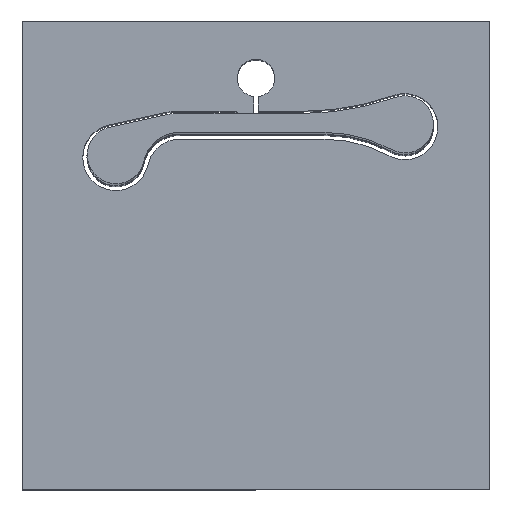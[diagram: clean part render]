
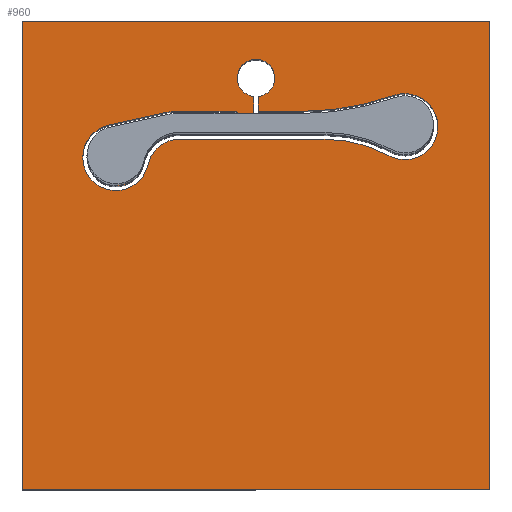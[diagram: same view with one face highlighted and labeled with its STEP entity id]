
A CAD part, top view. The second image highlights one B-rep face of the part: STEP entity #960.
In plain terms, the highlighted planar face has unit normal (0, 0, 1).
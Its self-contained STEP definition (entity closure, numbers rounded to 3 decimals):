
#122=CARTESIAN_POINT('',(22.761,40.438,50.0));
#123=VERTEX_POINT('',#122);
#130=CARTESIAN_POINT('',(16.414,40.438,50.0));
#131=VERTEX_POINT('',#130);
#132=CARTESIAN_POINT('',(16.414,40.438,50.0));
#133=DIRECTION('',(1.0,0.0,0.0));
#134=VECTOR('',#133,6.347);
#135=LINE('',#132,#134);
#136=EDGE_CURVE('',#131,#123,#135,.T.);
#162=CARTESIAN_POINT('',(15.453,40.333,50.0));
#163=VERTEX_POINT('',#162);
#164=CARTESIAN_POINT('',(16.414,36.,50.0));
#165=DIRECTION('',(0.0,0.0,-1.0));
#166=DIRECTION('',(0.0,1.0,0.0));
#167=AXIS2_PLACEMENT_3D('',#164,#165,#166);
#168=CIRCLE('',#167,4.438);
#169=EDGE_CURVE('',#163,#131,#168,.T.);
#194=CARTESIAN_POINT('',(9.234,38.954,50.0));
#195=VERTEX_POINT('',#194);
#196=CARTESIAN_POINT('',(9.234,38.954,50.0));
#197=DIRECTION('',(0.976,0.216,0.0));
#198=VECTOR('',#197,6.37);
#199=LINE('',#196,#198);
#200=EDGE_CURVE('',#195,#163,#199,.T.);
#226=CARTESIAN_POINT('',(13.456,34.742,50.0));
#227=VERTEX_POINT('',#226);
#228=CARTESIAN_POINT('',(10.,35.5,50.0));
#229=DIRECTION('',(0.0,0.0,-1.0));
#230=DIRECTION('',(-0.216,0.976,0.0));
#231=AXIS2_PLACEMENT_3D('',#228,#229,#230);
#232=CIRCLE('',#231,3.538);
#233=EDGE_CURVE('',#227,#195,#232,.T.);
#259=CARTESIAN_POINT('',(16.837,37.462,50.0));
#260=VERTEX_POINT('',#259);
#261=CARTESIAN_POINT('',(16.837,34.,50.0));
#262=DIRECTION('',(0.0,0.0,1.0));
#263=DIRECTION('',(0.0,-1.0,0.0));
#264=AXIS2_PLACEMENT_3D('',#261,#262,#263);
#265=CIRCLE('',#264,3.462);
#266=EDGE_CURVE('',#260,#227,#265,.T.);
#291=CARTESIAN_POINT('',(32.276,37.462,50.0));
#292=VERTEX_POINT('',#291);
#293=CARTESIAN_POINT('',(32.276,37.462,50.0));
#294=DIRECTION('',(-1.0,0.0,0.0));
#295=VECTOR('',#294,15.438);
#296=LINE('',#293,#295);
#297=EDGE_CURVE('',#292,#260,#296,.T.);
#323=CARTESIAN_POINT('',(39.234,35.692,50.0));
#324=VERTEX_POINT('',#323);
#325=CARTESIAN_POINT('',(32.276,22.9,50.0));
#326=DIRECTION('',(0.0,0.0,1.0));
#327=DIRECTION('',(-0.478,-0.878,0.0));
#328=AXIS2_PLACEMENT_3D('',#325,#326,#327);
#329=CIRCLE('',#328,14.562);
#330=EDGE_CURVE('',#324,#292,#329,.T.);
#356=CARTESIAN_POINT('',(39.743,42.135,50.0));
#357=VERTEX_POINT('',#356);
#358=CARTESIAN_POINT('',(40.924,38.8,50.0));
#359=DIRECTION('',(0.0,0.0,-1.0));
#360=DIRECTION('',(-0.478,-0.878,0.0));
#361=AXIS2_PLACEMENT_3D('',#358,#359,#360);
#362=CIRCLE('',#361,3.538);
#363=EDGE_CURVE('',#357,#324,#362,.T.);
#389=CARTESIAN_POINT('',(29.871,40.438,50.0));
#390=VERTEX_POINT('',#389);
#391=CARTESIAN_POINT('',(29.871,70.,50.0));
#392=DIRECTION('',(0.0,0.0,1.0));
#393=DIRECTION('',(0.0,1.0,0.0));
#394=AXIS2_PLACEMENT_3D('',#391,#392,#393);
#395=CIRCLE('',#394,29.562);
#396=EDGE_CURVE('',#390,#357,#395,.T.);
#421=CARTESIAN_POINT('',(25.239,40.438,50.0));
#422=VERTEX_POINT('',#421);
#423=CARTESIAN_POINT('',(25.239,40.438,50.0));
#424=DIRECTION('',(1.0,0.0,0.0));
#425=VECTOR('',#424,4.632);
#426=LINE('',#423,#425);
#427=EDGE_CURVE('',#422,#390,#426,.T.);
#452=CARTESIAN_POINT('',(25.239,42.014,50.0));
#453=VERTEX_POINT('',#452);
#454=CARTESIAN_POINT('',(25.239,42.014,50.0));
#455=DIRECTION('',(0.0,-1.0,0.0));
#456=VECTOR('',#455,1.576);
#457=LINE('',#454,#456);
#458=EDGE_CURVE('',#453,#422,#457,.T.);
#483=CARTESIAN_POINT('',(22.761,39.96,50.0));
#484=VERTEX_POINT('',#483);
#491=CARTESIAN_POINT('',(22.761,40.199,50.0));
#492=DIRECTION('',(0.0,0.0,-1.0));
#493=DIRECTION('',(0.0,-1.0,0.0));
#494=AXIS2_PLACEMENT_3D('',#491,#492,#493);
#495=CIRCLE('',#494,0.239);
#496=EDGE_CURVE('',#123,#484,#495,.T.);
#517=CARTESIAN_POINT('',(24.761,42.014,50.0));
#518=VERTEX_POINT('',#517);
#525=CARTESIAN_POINT('',(24.761,40.199,50.0));
#526=VERTEX_POINT('',#525);
#527=CARTESIAN_POINT('',(24.761,40.199,50.0));
#528=DIRECTION('',(0.0,1.0,0.0));
#529=VECTOR('',#528,1.815);
#530=LINE('',#527,#529);
#531=EDGE_CURVE('',#526,#518,#530,.T.);
#557=CARTESIAN_POINT('',(25.0,39.96,50.0));
#558=VERTEX_POINT('',#557);
#559=CARTESIAN_POINT('',(25.0,40.199,50.0));
#560=DIRECTION('',(0.0,0.0,-1.0));
#561=DIRECTION('',(-1.0,0.0,0.0));
#562=AXIS2_PLACEMENT_3D('',#559,#560,#561);
#563=CIRCLE('',#562,0.239);
#564=EDGE_CURVE('',#558,#526,#563,.T.);
#589=CARTESIAN_POINT('',(29.871,39.96,50.0));
#590=VERTEX_POINT('',#589);
#591=CARTESIAN_POINT('',(29.871,39.96,50.0));
#592=DIRECTION('',(-1.0,0.0,0.0));
#593=VECTOR('',#592,4.871);
#594=LINE('',#591,#593);
#595=EDGE_CURVE('',#590,#558,#594,.T.);
#621=CARTESIAN_POINT('',(39.903,41.684,50.0));
#622=VERTEX_POINT('',#621);
#623=CARTESIAN_POINT('',(29.871,70.,50.0));
#624=DIRECTION('',(0.0,0.0,-1.0));
#625=DIRECTION('',(0.0,-1.0,0.0));
#626=AXIS2_PLACEMENT_3D('',#623,#624,#625);
#627=CIRCLE('',#626,30.04);
#628=EDGE_CURVE('',#622,#590,#627,.T.);
#654=CARTESIAN_POINT('',(39.462,36.112,50.0));
#655=VERTEX_POINT('',#654);
#656=CARTESIAN_POINT('',(40.924,38.8,50.0));
#657=DIRECTION('',(0.0,0.0,1.0));
#658=DIRECTION('',(0.478,0.878,0.0));
#659=AXIS2_PLACEMENT_3D('',#656,#657,#658);
#660=CIRCLE('',#659,3.06);
#661=EDGE_CURVE('',#655,#622,#660,.T.);
#687=CARTESIAN_POINT('',(32.276,37.94,50.0));
#688=VERTEX_POINT('',#687);
#689=CARTESIAN_POINT('',(32.276,22.9,50.0));
#690=DIRECTION('',(0.0,0.0,-1.0));
#691=DIRECTION('',(0.478,0.878,0.0));
#692=AXIS2_PLACEMENT_3D('',#689,#690,#691);
#693=CIRCLE('',#692,15.04);
#694=EDGE_CURVE('',#688,#655,#693,.T.);
#719=CARTESIAN_POINT('',(16.837,37.94,50.0));
#720=VERTEX_POINT('',#719);
#721=CARTESIAN_POINT('',(16.837,37.94,50.0));
#722=DIRECTION('',(1.0,0.0,0.0));
#723=VECTOR('',#722,15.438);
#724=LINE('',#721,#723);
#725=EDGE_CURVE('',#720,#688,#724,.T.);
#751=CARTESIAN_POINT('',(12.989,34.844,50.0));
#752=VERTEX_POINT('',#751);
#753=CARTESIAN_POINT('',(16.837,34.,50.0));
#754=DIRECTION('',(0.0,0.0,-1.0));
#755=DIRECTION('',(0.0,1.0,0.0));
#756=AXIS2_PLACEMENT_3D('',#753,#754,#755);
#757=CIRCLE('',#756,3.94);
#758=EDGE_CURVE('',#752,#720,#757,.T.);
#784=CARTESIAN_POINT('',(9.338,38.487,50.0));
#785=VERTEX_POINT('',#784);
#786=CARTESIAN_POINT('',(10.,35.5,50.0));
#787=DIRECTION('',(0.0,0.0,1.0));
#788=DIRECTION('',(0.216,-0.976,0.0));
#789=AXIS2_PLACEMENT_3D('',#786,#787,#788);
#790=CIRCLE('',#789,3.06);
#791=EDGE_CURVE('',#785,#752,#790,.T.);
#816=CARTESIAN_POINT('',(15.556,39.866,50.0));
#817=VERTEX_POINT('',#816);
#818=CARTESIAN_POINT('',(15.556,39.866,50.0));
#819=DIRECTION('',(-0.976,-0.216,0.0));
#820=VECTOR('',#819,6.37);
#821=LINE('',#818,#820);
#822=EDGE_CURVE('',#817,#785,#821,.T.);
#848=CARTESIAN_POINT('',(16.414,39.96,50.0));
#849=VERTEX_POINT('',#848);
#850=CARTESIAN_POINT('',(16.414,36.,50.0));
#851=DIRECTION('',(0.0,0.0,1.0));
#852=DIRECTION('',(0.0,-1.0,0.0));
#853=AXIS2_PLACEMENT_3D('',#850,#851,#852);
#854=CIRCLE('',#853,3.96);
#855=EDGE_CURVE('',#849,#817,#854,.T.);
#878=CARTESIAN_POINT('',(22.761,39.96,50.0));
#879=DIRECTION('',(-1.0,0.0,0.0));
#880=VECTOR('',#879,6.347);
#881=LINE('',#878,#880);
#882=EDGE_CURVE('',#484,#849,#881,.T.);
#888=CARTESIAN_POINT('',(25.0,25.0,50.0));
#889=DIRECTION('',(0.0,0.0,1.0));
#890=DIRECTION('',(1.0,0.0,0.0));
#891=AXIS2_PLACEMENT_3D('',#888,#889,#890);
#892=PLANE('',#891);
#893=CARTESIAN_POINT('',(50.0,50.0,50.0));
#894=VERTEX_POINT('',#893);
#895=CARTESIAN_POINT('',(50.0,0.,50.0));
#896=VERTEX_POINT('',#895);
#897=CARTESIAN_POINT('',(50.0,50.0,50.0));
#898=DIRECTION('',(0.0,-1.0,0.0));
#899=VECTOR('',#898,50.);
#900=LINE('',#897,#899);
#901=EDGE_CURVE('',#894,#896,#900,.T.);
#902=ORIENTED_EDGE('',*,*,#901,.F.);
#903=CARTESIAN_POINT('',(0.,50.0,50.0));
#904=VERTEX_POINT('',#903);
#905=CARTESIAN_POINT('',(0.,50.0,50.0));
#906=DIRECTION('',(1.0,0.0,0.0));
#907=VECTOR('',#906,50.);
#908=LINE('',#905,#907);
#909=EDGE_CURVE('',#904,#894,#908,.T.);
#910=ORIENTED_EDGE('',*,*,#909,.F.);
#911=CARTESIAN_POINT('',(0.,0.,50.0));
#912=VERTEX_POINT('',#911);
#913=CARTESIAN_POINT('',(0.,0.,50.0));
#914=DIRECTION('',(0.0,1.0,0.0));
#915=VECTOR('',#914,50.0);
#916=LINE('',#913,#915);
#917=EDGE_CURVE('',#912,#904,#916,.T.);
#918=ORIENTED_EDGE('',*,*,#917,.F.);
#919=CARTESIAN_POINT('',(50.0,0.,50.0));
#920=DIRECTION('',(-1.0,0.0,0.0));
#921=VECTOR('',#920,50.0);
#922=LINE('',#919,#921);
#923=EDGE_CURVE('',#896,#912,#922,.T.);
#924=ORIENTED_EDGE('',*,*,#923,.F.);
#925=EDGE_LOOP('',(#902,#910,#918,#924));
#926=FACE_OUTER_BOUND('',#925,.T.);
#927=ORIENTED_EDGE('',*,*,#458,.T.);
#928=ORIENTED_EDGE('',*,*,#427,.T.);
#929=ORIENTED_EDGE('',*,*,#396,.T.);
#930=ORIENTED_EDGE('',*,*,#363,.T.);
#931=ORIENTED_EDGE('',*,*,#330,.T.);
#932=ORIENTED_EDGE('',*,*,#297,.T.);
#933=ORIENTED_EDGE('',*,*,#266,.T.);
#934=ORIENTED_EDGE('',*,*,#233,.T.);
#935=ORIENTED_EDGE('',*,*,#200,.T.);
#936=ORIENTED_EDGE('',*,*,#169,.T.);
#937=ORIENTED_EDGE('',*,*,#136,.T.);
#938=ORIENTED_EDGE('',*,*,#496,.T.);
#939=ORIENTED_EDGE('',*,*,#882,.T.);
#940=ORIENTED_EDGE('',*,*,#855,.T.);
#941=ORIENTED_EDGE('',*,*,#822,.T.);
#942=ORIENTED_EDGE('',*,*,#791,.T.);
#943=ORIENTED_EDGE('',*,*,#758,.T.);
#944=ORIENTED_EDGE('',*,*,#725,.T.);
#945=ORIENTED_EDGE('',*,*,#694,.T.);
#946=ORIENTED_EDGE('',*,*,#661,.T.);
#947=ORIENTED_EDGE('',*,*,#628,.T.);
#948=ORIENTED_EDGE('',*,*,#595,.T.);
#949=ORIENTED_EDGE('',*,*,#564,.T.);
#950=ORIENTED_EDGE('',*,*,#531,.T.);
#951=CARTESIAN_POINT('',(25.0,44.0,50.0));
#952=DIRECTION('',(0.0,0.0,-1.0));
#953=DIRECTION('',(-1.0,0.0,0.0));
#954=AXIS2_PLACEMENT_3D('',#951,#952,#953);
#955=CIRCLE('',#954,2.0);
#956=EDGE_CURVE('',#518,#453,#955,.T.);
#957=ORIENTED_EDGE('',*,*,#956,.T.);
#958=EDGE_LOOP('',(#927,#928,#929,#930,#931,#932,#933,#934,#935,#936,#937,#938,#939,#940,#941,#942,#943,#944,#945,#946,#947,#948,#949,#950,#957));
#959=FACE_BOUND('',#958,.T.);
#960=ADVANCED_FACE('',(#926,#959),#892,.T.);
